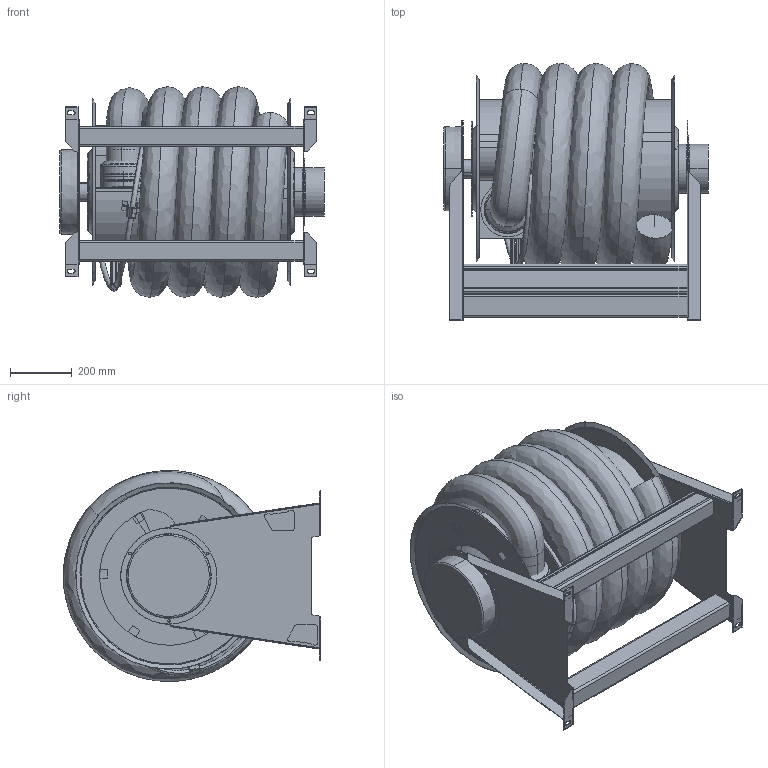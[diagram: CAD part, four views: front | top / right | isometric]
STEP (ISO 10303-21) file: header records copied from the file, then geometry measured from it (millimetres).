
FILE_DESCRIPTION((''),'2;1');
FILE_NAME('ASE_65_100_75','2016-12-13T',('Martin Eriksson'),(''),'CREO PARAMETRIC BY PTC INC, 2016130','CREO PARAMETRIC BY PTC INC, 2016130','');
FILE_SCHEMA(('AUTOMOTIVE_DESIGN { 1 0 10303 214 1 1 1 1 }'));
Length unit declared in the file: millimetre
Products named in the file (21): 110534; 110536; 110801; 110541; 112850; 110528; 110591; 110651; 110618; 110685; 110628; G_ASE_DUMMY; 124129; G_ASL-EVO_150CON_BRACKET; GUIDE_100; 110660; 124298; ASL-EVO_65_100_115; SPRING_DUMMY; AG_HOSE_100_115_75; ASE_65_100_75
Assembly tree (25 placements, depth 4):
  ASE_65_100_75
    110541
      110534
      110536
      110801  x2
    112850  x2
    ASL-EVO_65_100_115
      110528  x2
      110591
      110651
      110628
        110618
        110685
      G_ASL-EVO_150CON_BRACKET
        G_ASE_DUMMY
        124129
      GUIDE_100
      110660  x2
      124298
    SPRING_DUMMY
    124298
    AG_HOSE_100_115_75
Bounding box: 853.5 x 830.5 x 680.93 mm (x, y, z)
Volume: 185959901.9 mm3; surface area: 9816371.8 mm2
Topology: 21 solids, 26 shells, 839 faces, 1972 edges, 1185 vertices
Faces by surface type: plane 415, cylinder 255, torus 94, cone 42, bspline 33
Entity records: 38161 total; most frequent: CARTESIAN_POINT 12484, DIRECTION 3108, ORIENTED_EDGE 2836, EDGE_CURVE 1426, PRESENTATION_STYLE_ASSIGNMENT 1362, STYLED_ITEM 1361, AXIS2_PLACEMENT_3D 1134, CURVE_STYLE 1097
